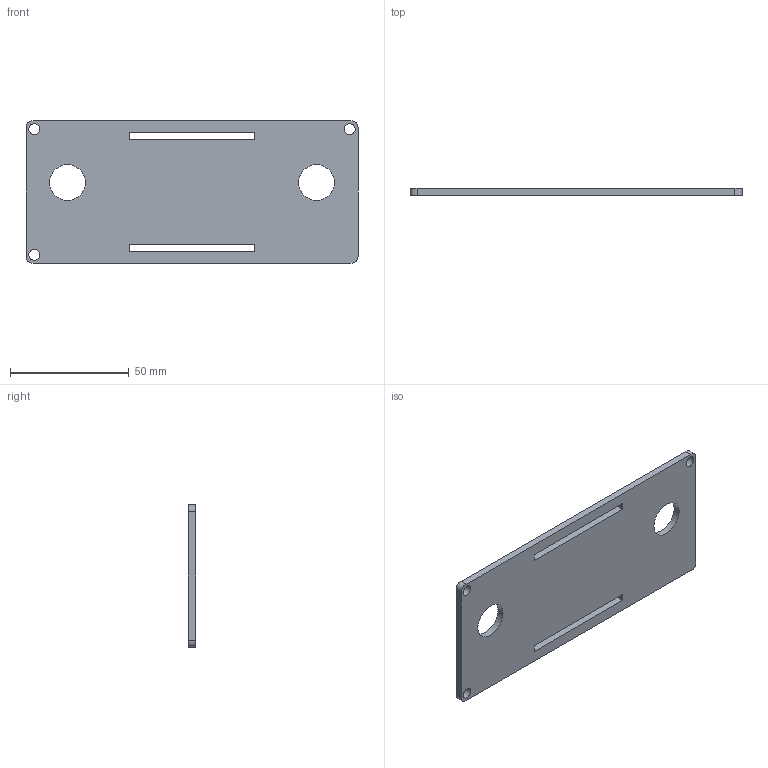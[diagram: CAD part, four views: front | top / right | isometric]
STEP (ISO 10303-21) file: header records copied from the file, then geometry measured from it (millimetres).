
FILE_DESCRIPTION(/* description */ ('STEP AP242 Edition 2','CAx-IF Rec.Pracs.---Representation and Presentation of Product Manufacturing Information (PMI)---4.0---2014-10-13','CAx-IF Rec.Pracs.---3D Tessellated Geometry---0.4---2014-09-14','2;1','CAx-IF Rec.Pracs.---User Defined Attributes---1.5---2016-08-15'),/* implementation_level */ '2;1');
FILE_NAME(/* name */ 'MHL - tampa',/* time_stamp */ '2025-11-29T18:38:08Z',/* author */ (''),/* organization */ (''),/* preprocessor_version */ 'ST-DEVELOPER v20',/* originating_system */ 'ONSHAPE BY PTC INC, 1.207',/* authorisation */ ' ');
FILE_SCHEMA (('AP242_MANAGED_MODEL_BASED_3D_ENGINEERING_MIM_LF { 1 0 10303 442 3 1 4 }'));
Length unit declared in the file: metre
Products named in the file (1): tampa
Bounding box: 140 x 3 x 60 mm (x, y, z)
Volume: 23032.9 mm3; surface area: 17618.2 mm2
Topology: 1 solids, 1 shells, 23 faces, 63 edges, 42 vertices
Faces by surface type: plane 14, cylinder 5, bspline 4
Full cylindrical faces by diameter (mm): 4.6 x3, 15 x2
Entity records: 968 total; most frequent: CARTESIAN_POINT 368, ORIENTED_EDGE 116, DIRECTION 100, EDGE_CURVE 58, VERTEX_POINT 42, EDGE_LOOP 42, FACE_BOUND 42, LINE 40
